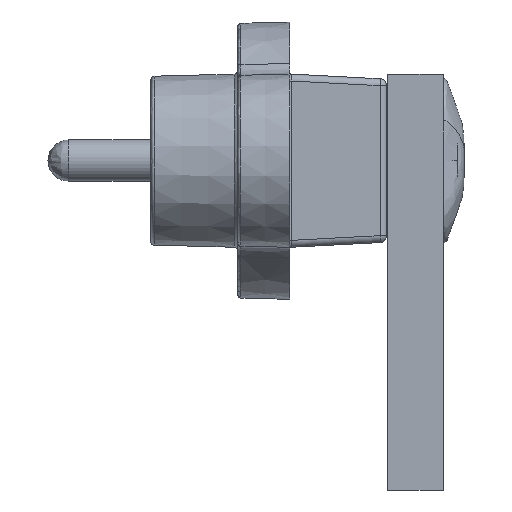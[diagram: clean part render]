
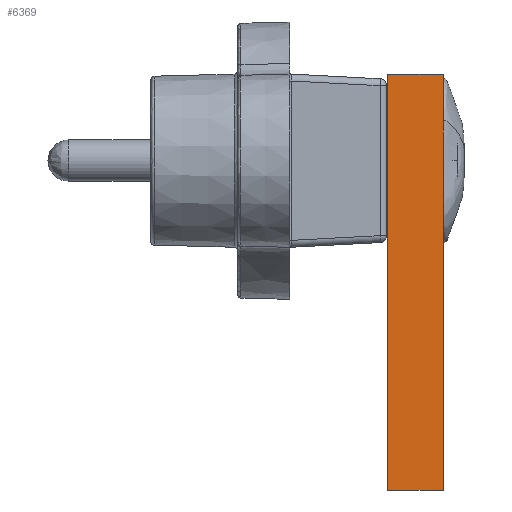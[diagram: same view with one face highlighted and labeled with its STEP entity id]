
A CAD part, left-side view. The second image highlights one B-rep face of the part: STEP entity #6369.
In plain terms, the highlighted planar face has unit normal (-1, 0, 0) as drawn and (1, 0, 0) by its records, which use the part's own axes.
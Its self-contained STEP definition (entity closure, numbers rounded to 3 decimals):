
#157 = DIRECTION ( 'NONE',  ( 0., 0., -1. ) ) ;
#228 = VECTOR ( 'NONE', #157, 1000. ) ;
#626 = CARTESIAN_POINT ( 'NONE',  ( 6.5, 1.6, 6. ) ) ;
#969 = VERTEX_POINT ( 'NONE', #8913 ) ;
#1116 = VERTEX_POINT ( 'NONE', #3837 ) ;
#1733 = EDGE_LOOP ( 'NONE', ( #10900, #10706, #11291, #17554 ) ) ;
#1783 = VECTOR ( 'NONE', #10725, 1000. ) ;
#3034 = LINE ( 'NONE', #17261, #18612 ) ;
#3101 = PLANE ( 'NONE',  #5358 ) ;
#3322 = CARTESIAN_POINT ( 'NONE',  ( 6.5, 0., 0. ) ) ;
#3761 = DIRECTION ( 'NONE',  ( -1., 0., 0. ) ) ;
#3837 = CARTESIAN_POINT ( 'NONE',  ( 6.5, 0., 6. ) ) ;
#3888 = CARTESIAN_POINT ( 'NONE',  ( 6.5, 1.6, -6. ) ) ;
#4630 = EDGE_CURVE ( 'NONE', #11226, #1116, #3034, .T. ) ;
#4915 = LINE ( 'NONE', #3322, #1783 ) ;
#5358 = AXIS2_PLACEMENT_3D ( 'NONE', #626, #3761, #15126 ) ;
#6369 = ADVANCED_FACE ( 'NONE', ( #11990 ), #3101, .F. ) ;
#7117 = DIRECTION ( 'NONE',  ( 0., -1., 0. ) ) ;
#7496 = LINE ( 'NONE', #13332, #228 ) ;
#7553 = EDGE_CURVE ( 'NONE', #11226, #10625, #7496, .T. ) ;
#8602 = DIRECTION ( 'NONE',  ( 0., 1., 0. ) ) ;
#8785 = CARTESIAN_POINT ( 'NONE',  ( 6.5, 1.6, -6. ) ) ;
#8913 = CARTESIAN_POINT ( 'NONE',  ( 6.5, 0., -6. ) ) ;
#9800 = CARTESIAN_POINT ( 'NONE',  ( 6.5, 1.6, 6. ) ) ;
#9904 = LINE ( 'NONE', #8785, #13393 ) ;
#10625 = VERTEX_POINT ( 'NONE', #3888 ) ;
#10706 = ORIENTED_EDGE ( 'NONE', *, *, #7553, .F. ) ;
#10725 = DIRECTION ( 'NONE',  ( 0., 0., 1. ) ) ;
#10900 = ORIENTED_EDGE ( 'NONE', *, *, #18646, .T. ) ;
#11226 = VERTEX_POINT ( 'NONE', #9800 ) ;
#11291 = ORIENTED_EDGE ( 'NONE', *, *, #4630, .T. ) ;
#11990 = FACE_OUTER_BOUND ( 'NONE', #1733, .T. ) ;
#13332 = CARTESIAN_POINT ( 'NONE',  ( 6.5, 1.6, 6. ) ) ;
#13393 = VECTOR ( 'NONE', #8602, 1000. ) ;
#14690 = EDGE_CURVE ( 'NONE', #969, #1116, #4915, .T. ) ;
#15126 = DIRECTION ( 'NONE',  ( 0., 0., 1. ) ) ;
#17261 = CARTESIAN_POINT ( 'NONE',  ( 6.5, 1.6, 6. ) ) ;
#17554 = ORIENTED_EDGE ( 'NONE', *, *, #14690, .F. ) ;
#18612 = VECTOR ( 'NONE', #7117, 1000. ) ;
#18646 = EDGE_CURVE ( 'NONE', #969, #10625, #9904, .T. ) ;
